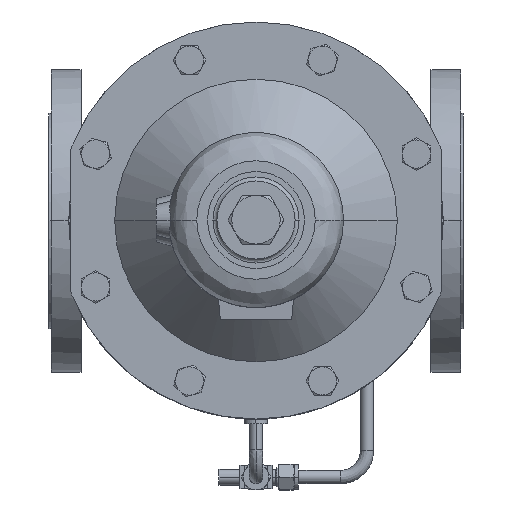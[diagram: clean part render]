
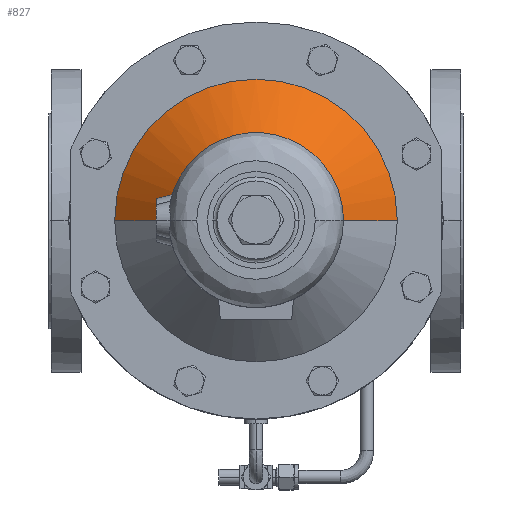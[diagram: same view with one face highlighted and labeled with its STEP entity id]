
A CAD part, top view. The second image highlights one B-rep face of the part: STEP entity #827.
In plain terms, the highlighted free-form (B-spline) face has degree [2, 1] with [5, 2] control points.
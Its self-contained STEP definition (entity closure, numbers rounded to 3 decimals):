
#827=ADVANCED_FACE('',(#3998),#3997,.T.);
#3997=( BOUNDED_SURFACE() B_SPLINE_SURFACE( 2,1,((#10428,#10429),(#10430,#10431),(#10432,#10433),(#10434,#10435),(#10436,#10437)), .UNSPECIFIED.,.F.,.F.,.F.) B_SPLINE_SURFACE_WITH_KNOTS((3,2,3),(2,2),(0.,0.5,1.),(0.,1.), .UNSPECIFIED. ) GEOMETRIC_REPRESENTATION_ITEM() RATIONAL_B_SPLINE_SURFACE(((1.,1.),(0.707,0.707),(1.,1.),(0.707,0.707),(1.,1.))) REPRESENTATION_ITEM('') SURFACE() );
#3998=FACE_OUTER_BOUND('',#10438,.T.);
#10428=CARTESIAN_POINT('',(-65.,0.,68.971));
#10429=CARTESIAN_POINT('',(-104.971,0.,29.));
#10430=CARTESIAN_POINT('',(-65.,65.,68.971));
#10431=CARTESIAN_POINT('',(-104.971,104.971,29.));
#10432=CARTESIAN_POINT('',(0.,65.,68.971));
#10433=CARTESIAN_POINT('',(0.,104.971,29.));
#10434=CARTESIAN_POINT('',(65.,65.,68.971));
#10435=CARTESIAN_POINT('',(104.971,104.971,29.));
#10436=CARTESIAN_POINT('',(65.,0.,68.971));
#10437=CARTESIAN_POINT('',(104.971,0.,29.));
#10438=EDGE_LOOP('',(#13726,#13727,#13728,#13729,#13730));
#13726=ORIENTED_EDGE('',*,*,#15663,.T.);
#13727=ORIENTED_EDGE('',*,*,#15664,.T.);
#13728=ORIENTED_EDGE('',*,*,#15659,.T.);
#13729=ORIENTED_EDGE('',*,*,#15589,.F.);
#13730=ORIENTED_EDGE('',*,*,#15662,.F.);
#15589=EDGE_CURVE('',#20733,#20734,#20735,.T.);
#15659=EDGE_CURVE('',#21200,#20734,#21201,.T.);
#15662=EDGE_CURVE('',#21214,#20733,#21221,.T.);
#15663=EDGE_CURVE('',#21214,#21227,#21228,.T.);
#15664=EDGE_CURVE('',#21227,#21200,#21234,.T.);
#20733=VERTEX_POINT('',#29922);
#20734=VERTEX_POINT('',#29923);
#20735=CIRCLE('',#29927,104.971);
#21200=VERTEX_POINT('',#30317);
#21201=(BOUNDED_CURVE() B_SPLINE_CURVE(1,(#30318,#30319),.UNSPECIFIED.,.F.,.F.) B_SPLINE_CURVE_WITH_KNOTS((2,2),(0.,1.),.UNSPECIFIED.) CURVE() GEOMETRIC_REPRESENTATION_ITEM() RATIONAL_B_SPLINE_CURVE((1.,1.)) REPRESENTATION_ITEM('') );
#21214=VERTEX_POINT('',#30325);
#21221=(BOUNDED_CURVE() B_SPLINE_CURVE(1,(#30330,#30331),.UNSPECIFIED.,.F.,.F.) B_SPLINE_CURVE_WITH_KNOTS((2,2),(0.,1.),.UNSPECIFIED.) CURVE() GEOMETRIC_REPRESENTATION_ITEM() RATIONAL_B_SPLINE_CURVE((0.75,0.75)) REPRESENTATION_ITEM('') );
#21227=VERTEX_POINT('',#30332);
#21228=CIRCLE('',#30336,65.);
#21234=CIRCLE('',#30340,65.);
#29922=CARTESIAN_POINT('',(-104.971,0.,29.));
#29923=CARTESIAN_POINT('',(104.971,0.,29.));
#29924=CARTESIAN_POINT('',(0.,0.,29.));
#29925=DIRECTION('',(0.,0.,-1.));
#29926=DIRECTION('',(-1.,0.,0.));
#29927=AXIS2_PLACEMENT_3D('',#29924,#29925,#29926);
#30317=CARTESIAN_POINT('',(65.,0.,68.971));
#30318=CARTESIAN_POINT('',(65.,0.,68.971));
#30319=CARTESIAN_POINT('',(104.971,0.,29.));
#30325=CARTESIAN_POINT('',(-65.,0.,68.971));
#30330=CARTESIAN_POINT('',(-65.,0.,68.971));
#30331=CARTESIAN_POINT('',(-104.971,0.,29.));
#30332=CARTESIAN_POINT('',(43.07,48.682,68.971));
#30333=CARTESIAN_POINT('',(0.,0.,68.971));
#30334=DIRECTION('',(0.,0.,-1.));
#30335=DIRECTION('',(-1.,0.,0.));
#30336=AXIS2_PLACEMENT_3D('',#30333,#30334,#30335);
#30337=CARTESIAN_POINT('',(0.,0.,68.971));
#30338=DIRECTION('',(0.,0.,-1.));
#30339=DIRECTION('',(-1.,0.,0.));
#30340=AXIS2_PLACEMENT_3D('',#30337,#30338,#30339);
